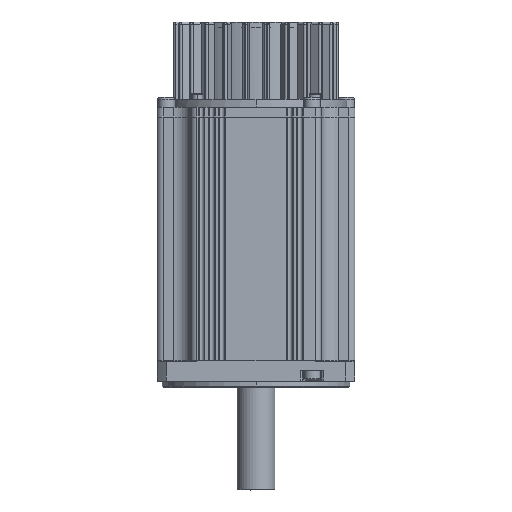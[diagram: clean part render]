
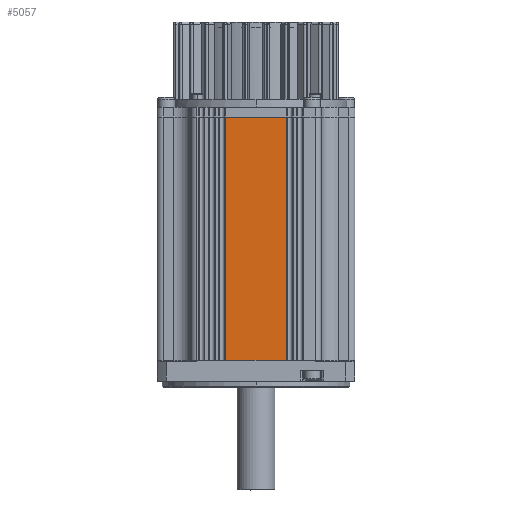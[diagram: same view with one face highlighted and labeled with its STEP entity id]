
A CAD part, front view. The second image highlights one B-rep face of the part: STEP entity #5057.
In plain terms, the highlighted planar face has unit normal (0, -1, 0).
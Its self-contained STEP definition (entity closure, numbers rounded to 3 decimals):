
#614=DIRECTION('',(1.,0.,0.));
#615=VECTOR('',#614,30.8);
#616=CARTESIAN_POINT('',(-15.4,-50.,0.));
#617=LINE('',#616,#615);
#1495=DIRECTION('',(1.,0.,0.));
#1496=VECTOR('',#1495,30.8);
#1497=CARTESIAN_POINT('',(-15.4,-50.,123.));
#1498=LINE('',#1497,#1496);
#2217=DIRECTION('',(0.,0.,-1.));
#2218=VECTOR('',#2217,123.);
#2219=CARTESIAN_POINT('',(-15.4,-50.,123.));
#2220=LINE('',#2219,#2218);
#2221=DIRECTION('',(0.,0.,1.));
#2222=VECTOR('',#2221,123.);
#2223=CARTESIAN_POINT('',(15.4,-50.,0.));
#2224=LINE('',#2223,#2222);
#3447=CARTESIAN_POINT('',(-15.4,-50.,0.));
#3449=VERTEX_POINT('',#3447);
#3453=CARTESIAN_POINT('',(-15.4,-50.,123.));
#3454=VERTEX_POINT('',#3453);
#3455=CARTESIAN_POINT('',(15.4,-50.,123.));
#3457=VERTEX_POINT('',#3455);
#3461=CARTESIAN_POINT('',(15.4,-50.,0.));
#3462=VERTEX_POINT('',#3461);
#5044=CARTESIAN_POINT('',(-33.,-50.,0.));
#5045=DIRECTION('',(0.,-1.,0.));
#5046=DIRECTION('',(1.,0.,0.));
#5047=AXIS2_PLACEMENT_3D('',#5044,#5045,#5046);
#5048=PLANE('',#5047);
#5050=ORIENTED_EDGE('',*,*,#5049,.F.);
#5051=ORIENTED_EDGE('',*,*,#4412,.T.);
#5053=ORIENTED_EDGE('',*,*,#5052,.F.);
#5054=ORIENTED_EDGE('',*,*,#3773,.F.);
#5055=EDGE_LOOP('',(#5050,#5051,#5053,#5054));
#5056=FACE_OUTER_BOUND('',#5055,.F.);
#5057=ADVANCED_FACE('',(#5056),#5048,.T.);
#3773=EDGE_CURVE('',#3449,#3462,#617,.T.);
#4412=EDGE_CURVE('',#3454,#3457,#1498,.T.);
#5049=EDGE_CURVE('',#3454,#3449,#2220,.T.);
#5052=EDGE_CURVE('',#3462,#3457,#2224,.T.);
